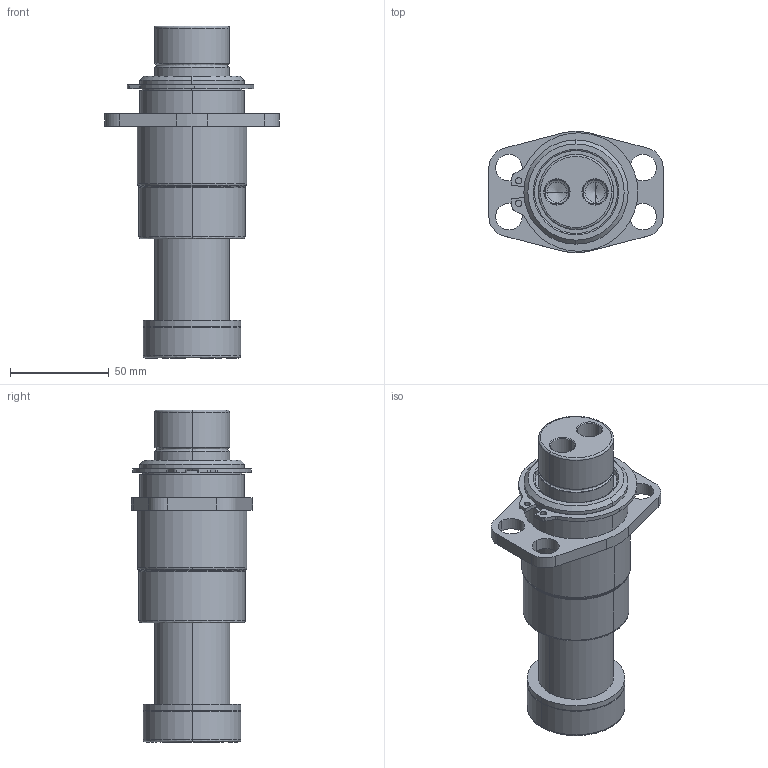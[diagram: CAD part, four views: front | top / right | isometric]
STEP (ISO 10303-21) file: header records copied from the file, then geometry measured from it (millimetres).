
FILE_DESCRIPTION (( 'STEP AP214' ), '1' );
FILE_NAME ('GK152-N3-1-TB-M-XXX.STEP', '2020-09-21T19:21:50', ( '' ), ( '' ), 'SwSTEP 2.0', 'SolidWorks 2017', '' );
FILE_SCHEMA (( 'AUTOMOTIVE_DESIGN' ));
Length unit declared in the file: inch
Products named in the file (7): GK152-N3-1-TB-M-XXX; GK1.50-N3-1-TB-Base; GK152-M-XXX-GuidePin; GK152-DampeningWasher; RetainingRing
Assembly tree (6 placements, depth 3):
  GK152-N3-1-TB-M-XXX
    GK1.50-N3-1-TB-Base
      GK1.50-N3-1-TB-Base
      RetainingRing
    GK152-M-XXX-GuidePin
      GK152-M-XXX-GuidePin
      GK152-DampeningWasher
Bounding box: 88.34 x 61.36 x 168.28 mm (x, y, z)
Volume: 300732.2 mm3; surface area: 64255.3 mm2
Topology: 4 solids, 4 shells, 133 faces, 311 edges, 190 vertices
Faces by surface type: cylinder 65, plane 26, cone 22, bspline 20
Entity records: 4830 total; most frequent: CARTESIAN_POINT 1281, DIRECTION 719, ORIENTED_EDGE 614, EDGE_CURVE 307, AXIS2_PLACEMENT_3D 298, VERTEX_POINT 190, CIRCLE 174, EDGE_LOOP 157
